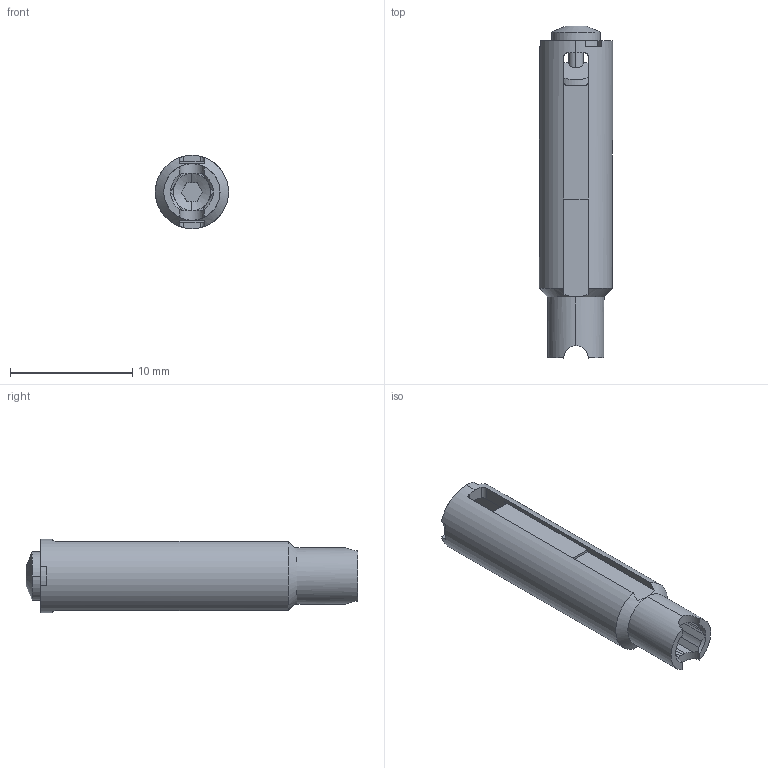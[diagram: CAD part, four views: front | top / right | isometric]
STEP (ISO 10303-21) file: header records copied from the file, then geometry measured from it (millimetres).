
FILE_DESCRIPTION (( 'STEP AP203' ), '1' );
FILE_NAME ('SGDA-607CF.STEP', '2020-08-07T06:47:20', ( '' ), ( '' ), 'SwSTEP 2.0', 'SolidWorks 2019', '' );
FILE_SCHEMA (( 'CONFIG_CONTROL_DESIGN' ));
Length unit declared in the file: millimetre
Products named in the file (3): SGD-605F_CORPO_CAT_SGD-605FA CORPO; SGDA-607CF; SGD-607C_STELO MOBILE_CAT
Assembly tree (2 placements, depth 2):
  SGDA-607CF
    SGD-605F_CORPO_CAT_SGD-605FA CORPO
    SGD-607C_STELO MOBILE_CAT
Bounding box: 5.99 x 27.2 x 6 mm (x, y, z)
Volume: 568.9 mm3; surface area: 918.9 mm2
Topology: 2 solids, 2 shells, 100 faces, 288 edges, 188 vertices
Faces by surface type: plane 63, cylinder 29, cone 8
Entity records: 3705 total; most frequent: CARTESIAN_POINT 815, ORIENTED_EDGE 576, DIRECTION 516, EDGE_CURVE 288, VERTEX_POINT 188, AXIS2_PLACEMENT_3D 181, VECTOR 154, LINE 154
